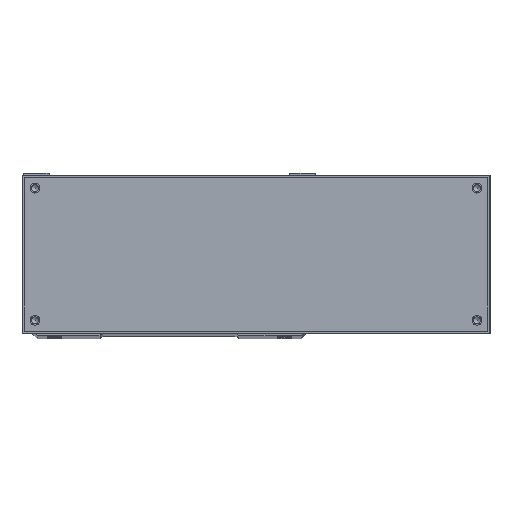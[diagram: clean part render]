
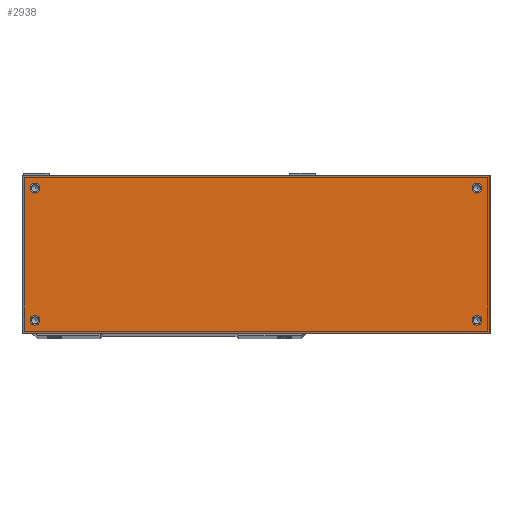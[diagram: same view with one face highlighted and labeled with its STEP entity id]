
A CAD part, top view. The second image highlights one B-rep face of the part: STEP entity #2938.
In plain terms, the highlighted planar face has unit normal (0, 0, 1).
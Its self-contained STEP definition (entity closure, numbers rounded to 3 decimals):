
#610=FACE_BOUND('',#5012,.T.);
#611=FACE_BOUND('',#5013,.T.);
#612=FACE_BOUND('',#5014,.T.);
#613=FACE_BOUND('',#5015,.T.);
#614=FACE_BOUND('',#5016,.T.);
#2148=CIRCLE('',#16542,2.25);
#2150=CIRCLE('',#16545,2.25);
#2152=CIRCLE('',#16548,2.25);
#2154=CIRCLE('',#16551,2.25);
#2938=ADVANCED_FACE('8',(#610,#611,#612,#613,#614),#3523,.F.);
#3523=PLANE('',#16553);
#5012=EDGE_LOOP('',(#8146));
#5013=EDGE_LOOP('',(#8147));
#5014=EDGE_LOOP('',(#8148));
#5015=EDGE_LOOP('',(#8149));
#5016=EDGE_LOOP('',(#8150,#8151,#8152,#8153));
#8146=ORIENTED_EDGE('',*,*,#12709,.F.);
#8147=ORIENTED_EDGE('',*,*,#12711,.F.);
#8148=ORIENTED_EDGE('',*,*,#12713,.F.);
#8149=ORIENTED_EDGE('',*,*,#12715,.F.);
#8150=ORIENTED_EDGE('',*,*,#12215,.F.);
#8151=ORIENTED_EDGE('',*,*,#12227,.F.);
#8152=ORIENTED_EDGE('',*,*,#11723,.F.);
#8153=ORIENTED_EDGE('',*,*,#11689,.F.);
#10068=VERTEX_POINT('',#23090);
#10069=VERTEX_POINT('',#23092);
#10100=VERTEX_POINT('',#23159);
#10463=VERTEX_POINT('',#24722);
#10776=VERTEX_POINT('',#27629);
#10778=VERTEX_POINT('',#27634);
#10780=VERTEX_POINT('',#27639);
#10782=VERTEX_POINT('',#27644);
#11689=EDGE_CURVE('',#10068,#10069,#13562,.T.);
#11723=EDGE_CURVE('',#10069,#10100,#13596,.T.);
#12215=EDGE_CURVE('',#10463,#10068,#13846,.T.);
#12227=EDGE_CURVE('',#10100,#10463,#13852,.T.);
#12709=EDGE_CURVE('',#10776,#10776,#2148,.T.);
#12711=EDGE_CURVE('',#10778,#10778,#2150,.T.);
#12713=EDGE_CURVE('',#10780,#10780,#2152,.T.);
#12715=EDGE_CURVE('',#10782,#10782,#2154,.T.);
#13562=LINE('',#23091,#14631);
#13596=LINE('',#23158,#14665);
#13846=LINE('',#24723,#14915);
#13852=LINE('',#24745,#14921);
#14631=VECTOR('',#17993,1.);
#14665=VECTOR('',#18031,1.);
#14915=VECTOR('',#18955,1.);
#14921=VECTOR('',#18977,1.);
#16542=AXIS2_PLACEMENT_3D('',#27628,#20136,#20137);
#16545=AXIS2_PLACEMENT_3D('',#27633,#20142,#20143);
#16548=AXIS2_PLACEMENT_3D('',#27638,#20148,#20149);
#16551=AXIS2_PLACEMENT_3D('',#27643,#20154,#20155);
#16553=AXIS2_PLACEMENT_3D('',#27646,#20158,#20159);
#17993=DIRECTION('',(-1.,0.,0.));
#18031=DIRECTION('',(0.,1.,0.));
#18955=DIRECTION('',(0.,-1.,0.));
#18977=DIRECTION('',(1.,0.,0.));
#20136=DIRECTION('',(0.,0.,1.));
#20137=DIRECTION('',(-1.,0.,0.));
#20142=DIRECTION('',(0.,0.,1.));
#20143=DIRECTION('',(1.,0.,0.));
#20148=DIRECTION('',(0.,0.,1.));
#20149=DIRECTION('',(-1.,0.,0.));
#20154=DIRECTION('',(0.,0.,1.));
#20155=DIRECTION('',(1.,0.,0.));
#20158=DIRECTION('',(0.,0.,-1.));
#20159=DIRECTION('',(1.,0.,0.));
#23090=CARTESIAN_POINT('',(148.,0.,193.));
#23091=CARTESIAN_POINT('',(148.,0.,193.));
#23092=CARTESIAN_POINT('',(-68.,0.,193.));
#23158=CARTESIAN_POINT('',(-68.,73.,193.));
#23159=CARTESIAN_POINT('',(-68.,73.,193.));
#24722=CARTESIAN_POINT('',(148.,73.,193.));
#24723=CARTESIAN_POINT('',(148.,73.,193.));
#24745=CARTESIAN_POINT('',(148.,73.,193.));
#27628=CARTESIAN_POINT('',(-62.,6.,193.));
#27629=CARTESIAN_POINT('',(-64.25,6.,193.));
#27633=CARTESIAN_POINT('',(142.,6.,193.));
#27634=CARTESIAN_POINT('',(144.25,6.,193.));
#27638=CARTESIAN_POINT('',(142.,67.,193.));
#27639=CARTESIAN_POINT('',(139.75,67.,193.));
#27643=CARTESIAN_POINT('',(-62.,67.,193.));
#27644=CARTESIAN_POINT('',(-59.75,67.,193.));
#27646=CARTESIAN_POINT('',(40.,36.5,193.));
